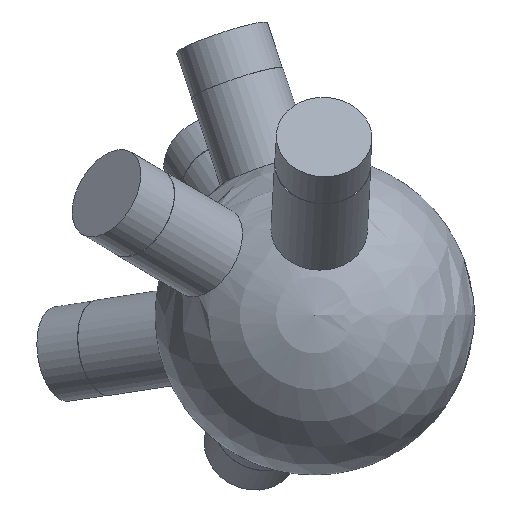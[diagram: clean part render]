
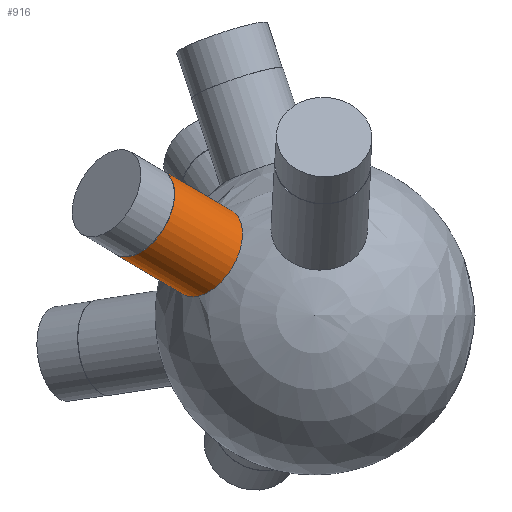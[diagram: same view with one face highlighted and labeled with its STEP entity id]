
A CAD part, top view. The second image highlights one B-rep face of the part: STEP entity #916.
In plain terms, the highlighted cylindrical face has radius 6 mm (diameter 12 mm), a full revolution.
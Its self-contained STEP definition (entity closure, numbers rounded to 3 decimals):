
#35 = SPHERICAL_SURFACE('',#36,20.);
#36 = AXIS2_PLACEMENT_3D('',#37,#38,#39);
#37 = CARTESIAN_POINT('',(0.,0.,0.));
#38 = DIRECTION('',(0.,0.,1.));
#39 = DIRECTION('',(1.,0.,-0.));
#551 = EDGE_CURVE('',#552,#552,#554,.T.);
#552 = VERTEX_POINT('',#553);
#553 = CARTESIAN_POINT('',(-17.161,7.778,6.708)
  );
#554 = SURFACE_CURVE('',#555,(#560,#629),.PCURVE_S1.);
#555 = CIRCLE('',#556,6.);
#556 = AXIS2_PLACEMENT_3D('',#557,#558,#559);
#557 = CARTESIAN_POINT('',(-13.277,7.778,11.28)
  );
#558 = DIRECTION('',(-0.696,0.408,0.591));
#559 = DIRECTION('',(-0.647,0.,-0.762
    ));
#560 = PCURVE('',#35,#561);
#561 = DEFINITIONAL_REPRESENTATION('',(#562),#628);
#562 = B_SPLINE_CURVE_WITH_KNOTS('',8,(#563,#564,#565,#566,#567,#568,
    #569,#570,#571,#572,#573,#574,#575,#576,#577,#578,#579,#580,#581,
    #582,#583,#584,#585,#586,#587,#588,#589,#590,#591,#592,#593,#594,
    #595,#596,#597,#598,#599,#600,#601,#602,#603,#604,#605,#606,#607,
    #608,#609,#610,#611,#612,#613,#614,#615,#616,#617,#618,#619,#620,
    #621,#622,#623,#624,#625,#626,#627),.UNSPECIFIED.,.F.,.F.,(9,7,7,7,7
    ,7,7,7,7,9),(0.,0.785,1.473,2.074,
    2.6,3.06,3.463,4.168,
    5.226,6.283),.UNSPECIFIED.);
#563 = CARTESIAN_POINT('',(2.716,0.342));
#564 = CARTESIAN_POINT('',(2.746,0.35));
#565 = CARTESIAN_POINT('',(2.775,0.361));
#566 = CARTESIAN_POINT('',(2.804,0.375));
#567 = CARTESIAN_POINT('',(2.831,0.391));
#568 = CARTESIAN_POINT('',(2.856,0.409));
#569 = CARTESIAN_POINT('',(2.88,0.43));
#570 = CARTESIAN_POINT('',(2.901,0.452));
#571 = CARTESIAN_POINT('',(2.937,0.497));
#572 = CARTESIAN_POINT('',(2.952,0.519));
#573 = CARTESIAN_POINT('',(2.965,0.543));
#574 = CARTESIAN_POINT('',(2.976,0.567));
#575 = CARTESIAN_POINT('',(2.984,0.592));
#576 = CARTESIAN_POINT('',(2.99,0.618));
#577 = CARTESIAN_POINT('',(2.993,0.643));
#578 = CARTESIAN_POINT('',(2.993,0.692));
#579 = CARTESIAN_POINT('',(2.99,0.714));
#580 = CARTESIAN_POINT('',(2.985,0.737));
#581 = CARTESIAN_POINT('',(2.978,0.759));
#582 = CARTESIAN_POINT('',(2.967,0.78));
#583 = CARTESIAN_POINT('',(2.954,0.801));
#584 = CARTESIAN_POINT('',(2.937,0.82));
#585 = CARTESIAN_POINT('',(2.9,0.854));
#586 = CARTESIAN_POINT('',(2.88,0.869));
#587 = CARTESIAN_POINT('',(2.858,0.883));
#588 = CARTESIAN_POINT('',(2.833,0.896));
#589 = CARTESIAN_POINT('',(2.806,0.906));
#590 = CARTESIAN_POINT('',(2.777,0.916));
#591 = CARTESIAN_POINT('',(2.747,0.923));
#592 = CARTESIAN_POINT('',(2.688,0.933));
#593 = CARTESIAN_POINT('',(2.659,0.937));
#594 = CARTESIAN_POINT('',(2.63,0.938));
#595 = CARTESIAN_POINT('',(2.6,0.939));
#596 = CARTESIAN_POINT('',(2.571,0.937));
#597 = CARTESIAN_POINT('',(2.542,0.935));
#598 = CARTESIAN_POINT('',(2.514,0.93));
#599 = CARTESIAN_POINT('',(2.463,0.919));
#600 = CARTESIAN_POINT('',(2.441,0.913));
#601 = CARTESIAN_POINT('',(2.419,0.906));
#602 = CARTESIAN_POINT('',(2.398,0.898));
#603 = CARTESIAN_POINT('',(2.379,0.889));
#604 = CARTESIAN_POINT('',(2.361,0.879));
#605 = CARTESIAN_POINT('',(2.344,0.868));
#606 = CARTESIAN_POINT('',(2.302,0.837));
#607 = CARTESIAN_POINT('',(2.28,0.815));
#608 = CARTESIAN_POINT('',(2.262,0.792));
#609 = CARTESIAN_POINT('',(2.248,0.767));
#610 = CARTESIAN_POINT('',(2.238,0.741));
#611 = CARTESIAN_POINT('',(2.232,0.715));
#612 = CARTESIAN_POINT('',(2.23,0.688));
#613 = CARTESIAN_POINT('',(2.232,0.622));
#614 = CARTESIAN_POINT('',(2.24,0.583));
#615 = CARTESIAN_POINT('',(2.254,0.544));
#616 = CARTESIAN_POINT('',(2.274,0.508));
#617 = CARTESIAN_POINT('',(2.299,0.474));
#618 = CARTESIAN_POINT('',(2.328,0.443));
#619 = CARTESIAN_POINT('',(2.36,0.416));
#620 = CARTESIAN_POINT('',(2.43,0.37));
#621 = CARTESIAN_POINT('',(2.468,0.351));
#622 = CARTESIAN_POINT('',(2.508,0.337));
#623 = CARTESIAN_POINT('',(2.549,0.328));
#624 = CARTESIAN_POINT('',(2.592,0.324));
#625 = CARTESIAN_POINT('',(2.634,0.325));
#626 = CARTESIAN_POINT('',(2.676,0.331));
#627 = CARTESIAN_POINT('',(2.716,0.342));
#628 = ( GEOMETRIC_REPRESENTATION_CONTEXT(2) 
PARAMETRIC_REPRESENTATION_CONTEXT() REPRESENTATION_CONTEXT('2D SPACE',''
  ) );
#629 = PCURVE('',#630,#635);
#630 = CYLINDRICAL_SURFACE('',#631,6.);
#631 = AXIS2_PLACEMENT_3D('',#632,#633,#634);
#632 = CARTESIAN_POINT('',(0.,0.,0.));
#633 = DIRECTION('',(-0.696,0.408,0.591));
#634 = DIRECTION('',(-0.647,0.,-0.762
    ));
#635 = DEFINITIONAL_REPRESENTATION('',(#636),#640);
#636 = LINE('',#637,#638);
#637 = CARTESIAN_POINT('',(0.,19.079));
#638 = VECTOR('',#639,1.);
#639 = DIRECTION('',(1.,0.));
#640 = ( GEOMETRIC_REPRESENTATION_CONTEXT(2) 
PARAMETRIC_REPRESENTATION_CONTEXT() REPRESENTATION_CONTEXT('2D SPACE',''
  ) );
#916 = ADVANCED_FACE('',(#917),#630,.T.);
#917 = FACE_BOUND('',#918,.T.);
#918 = EDGE_LOOP('',(#919,#942,#969,#970));
#919 = ORIENTED_EDGE('',*,*,#920,.T.);
#920 = EDGE_CURVE('',#552,#921,#923,.T.);
#921 = VERTEX_POINT('',#922);
#922 = CARTESIAN_POINT('',(-25.612,12.728,
    13.887));
#923 = SEAM_CURVE('',#924,(#928,#935),.PCURVE_S1.);
#924 = LINE('',#925,#926);
#925 = CARTESIAN_POINT('',(-3.885,0.,
    -4.572));
#926 = VECTOR('',#927,1.);
#927 = DIRECTION('',(-0.696,0.408,0.591));
#928 = PCURVE('',#630,#929);
#929 = DEFINITIONAL_REPRESENTATION('',(#930),#934);
#930 = LINE('',#931,#932);
#931 = CARTESIAN_POINT('',(6.283,-0.));
#932 = VECTOR('',#933,1.);
#933 = DIRECTION('',(0.,1.));
#934 = ( GEOMETRIC_REPRESENTATION_CONTEXT(2) 
PARAMETRIC_REPRESENTATION_CONTEXT() REPRESENTATION_CONTEXT('2D SPACE',''
  ) );
#935 = PCURVE('',#630,#936);
#936 = DEFINITIONAL_REPRESENTATION('',(#937),#941);
#937 = LINE('',#938,#939);
#938 = CARTESIAN_POINT('',(0.,-0.));
#939 = VECTOR('',#940,1.);
#940 = DIRECTION('',(0.,1.));
#941 = ( GEOMETRIC_REPRESENTATION_CONTEXT(2) 
PARAMETRIC_REPRESENTATION_CONTEXT() REPRESENTATION_CONTEXT('2D SPACE',''
  ) );
#942 = ORIENTED_EDGE('',*,*,#943,.F.);
#943 = EDGE_CURVE('',#921,#921,#944,.T.);
#944 = SURFACE_CURVE('',#945,(#950,#957),.PCURVE_S1.);
#945 = CIRCLE('',#946,6.);
#946 = AXIS2_PLACEMENT_3D('',#947,#948,#949);
#947 = CARTESIAN_POINT('',(-21.727,12.728,
    18.46));
#948 = DIRECTION('',(-0.696,0.408,0.591));
#949 = DIRECTION('',(-0.647,0.,-0.762
    ));
#950 = PCURVE('',#630,#951);
#951 = DEFINITIONAL_REPRESENTATION('',(#952),#956);
#952 = LINE('',#953,#954);
#953 = CARTESIAN_POINT('',(0.,31.222));
#954 = VECTOR('',#955,1.);
#955 = DIRECTION('',(1.,0.));
#956 = ( GEOMETRIC_REPRESENTATION_CONTEXT(2) 
PARAMETRIC_REPRESENTATION_CONTEXT() REPRESENTATION_CONTEXT('2D SPACE',''
  ) );
#957 = PCURVE('',#958,#963);
#958 = PLANE('',#959);
#959 = AXIS2_PLACEMENT_3D('',#960,#961,#962);
#960 = CARTESIAN_POINT('',(-21.727,12.728,
    18.46));
#961 = DIRECTION('',(-0.696,0.408,0.591));
#962 = DIRECTION('',(-0.647,0.,-0.762
    ));
#963 = DEFINITIONAL_REPRESENTATION('',(#964),#968);
#964 = CIRCLE('',#965,6.);
#965 = AXIS2_PLACEMENT_2D('',#966,#967);
#966 = CARTESIAN_POINT('',(0.,0.));
#967 = DIRECTION('',(1.,0.));
#968 = ( GEOMETRIC_REPRESENTATION_CONTEXT(2) 
PARAMETRIC_REPRESENTATION_CONTEXT() REPRESENTATION_CONTEXT('2D SPACE',''
  ) );
#969 = ORIENTED_EDGE('',*,*,#920,.F.);
#970 = ORIENTED_EDGE('',*,*,#551,.T.);
